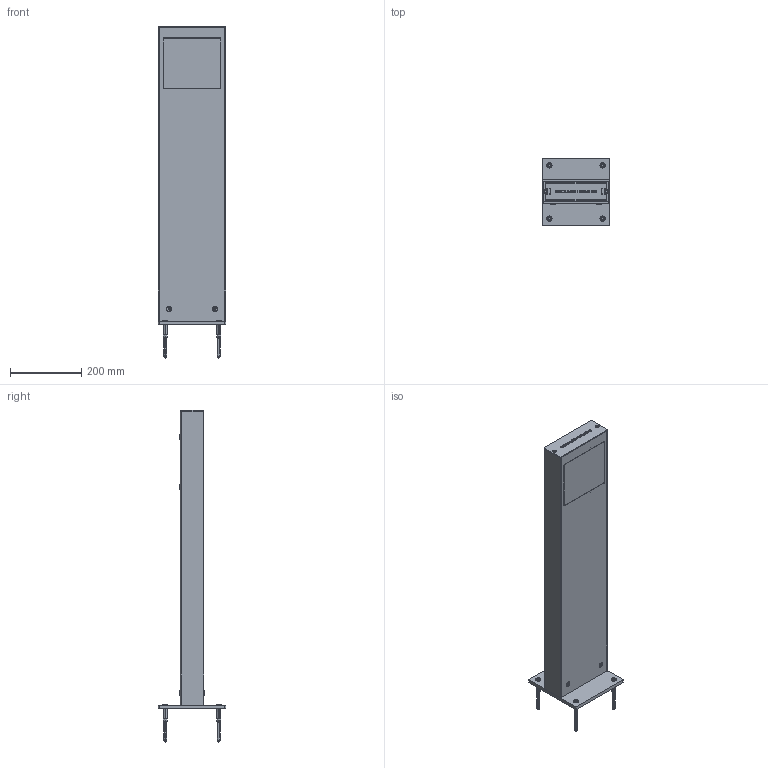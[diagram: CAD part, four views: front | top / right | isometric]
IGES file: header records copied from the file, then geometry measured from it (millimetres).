
Start section: SolidWorks IGES file using analytic representation for surfaces
Global section: file name: C:\SANTACOLE_PDM\Proyectos Catálogo\PROD-P12-020 -- BALIZA RAMA LED\6_Técnico comercial\3D WEB\Baliza RAMA LED.IGS; native system: SolidWorks 2013; preprocessor: SolidWorks 2013; author: jordi.munoz; date: 150414.160444; units: millimetre
Bounding box: 190 x 190 x 934.38 mm (x, y, z)
Volume: 1819973.8 mm3; surface area: 1114894.8 mm2
Topology: 39 solids, 39 shells, 3243 faces, 8436 edges, 5308 vertices
Faces by surface type: plane 2096, revolution 1147
